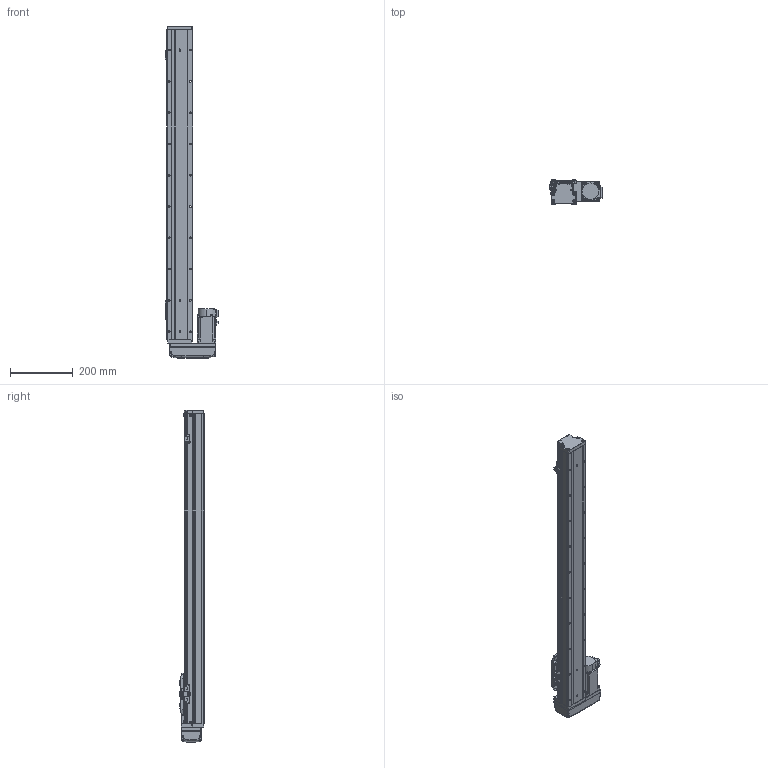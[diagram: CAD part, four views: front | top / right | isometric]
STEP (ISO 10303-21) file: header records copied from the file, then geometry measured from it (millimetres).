
FILE_DESCRIPTION (( 'STEP AP203' ), '1' );
FILE_NAME ('GTH8-800-BR-M20-C4.step', '2022-09-23T01:11:35', ( '微软用户' ), ( '微软中国' ), 'SwSTEP 2.0', 'SolidWorks 2020', '' );
FILE_SCHEMA (( 'CONFIG_CONTROL_DESIGN' ));
Length unit declared in the file: millimetre
Products named in the file (18): hg-kn43j_-s100_; GTH80-003; GBT 70.1-M4×16; CTHA86-015-1_CTHA86-015-2; GTH80-004; GTH80-028; CTHA86-033_M40B; GTH80-006; GTH50-024; GTH8-800-BR-M20-C4; GTH80-013; GTH50-023; GBT 70.3-M3℅6; GBT96.1-2002 3×0.8; GTH80-022; BTH-M3X5X6; GTH80-001_800; GBT 70.1-M3℅6
Assembly tree (57 placements, depth 2):
  GTH8-800-BR-M20-C4
    GTH80-001_800
    GTH80-003
    GTH80-004
    GTH80-006
    GTH80-013
    GBT 70.3-M3℅6  x4
    GTH80-022
    GBT 70.1-M3℅6  x14
    GBT 70.1-M4×16  x8
    GTH80-028  x2
    GTH50-024  x3
    GTH50-023  x3
    GBT96.1-2002 3×0.8  x6
    BTH-M3X5X6  x8
    hg-kn43j_-s100_
    CTHA86-015-1_CTHA86-015-2
    CTHA86-033_M40B
Bounding box: 169.7 x 78 x 1061 mm (x, y, z)
Volume: 5275489.9 mm3; surface area: 530132.4 mm2
Topology: 59 solids, 59 shells, 2248 faces, 5199 edges, 3187 vertices
Faces by surface type: plane 1187, cylinder 619, cone 260, torus 166, bspline 8, sphere 8
Entity records: 41218 total; most frequent: CARTESIAN_POINT 7241, DIRECTION 6705, ORIENTED_EDGE 6216, EDGE_CURVE 3108, AXIS2_PLACEMENT_3D 2349, LINE 2007, VECTOR 2007, VERTEX_POINT 1962
